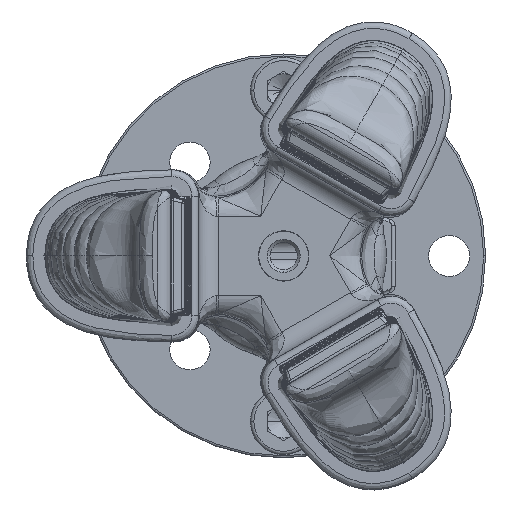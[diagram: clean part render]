
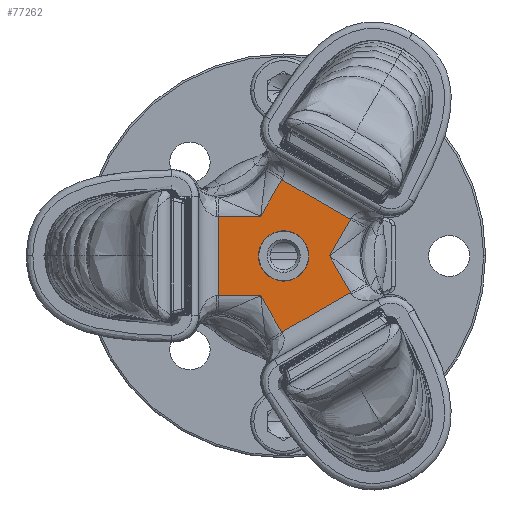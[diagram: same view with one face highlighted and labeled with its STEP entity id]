
A CAD part, left-side view. The second image highlights one B-rep face of the part: STEP entity #77262.
In plain terms, the highlighted planar face has unit normal (-1, 0, 0) as drawn and (-1, -0.017, 0) by its records, which use the part's own axes.
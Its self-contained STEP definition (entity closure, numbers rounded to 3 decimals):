
#1032 = ORIENTED_EDGE ( 'NONE', *, *, #43422, .F. ) ;
#2849 = DIRECTION ( 'NONE',  ( 0.017, -1., 0. ) ) ;
#4518 = VERTEX_POINT ( 'NONE', #40141 ) ;
#6142 = PLANE ( 'NONE',  #62384 ) ;
#6792 = DIRECTION ( 'NONE',  ( 0.015, -0.866, 0.5 ) ) ;
#7207 = DIRECTION ( 'NONE',  ( 0.017, -1., 0. ) ) ;
#7908 = ORIENTED_EDGE ( 'NONE', *, *, #42621, .T. ) ;
#8778 = CARTESIAN_POINT ( 'NONE',  ( 1.16, -16.764, 6. ) ) ;
#10784 = ORIENTED_EDGE ( 'NONE', *, *, #33320, .T. ) ;
#11603 = DIRECTION ( 'NONE',  ( 0.009, -0.5, -0.866 ) ) ;
#11904 = VERTEX_POINT ( 'NONE', #72953 ) ;
#13123 = DIRECTION ( 'NONE',  ( -0.017, 1., 0. ) ) ;
#16214 = CARTESIAN_POINT ( 'NONE',  ( 1.442, -32.935, -4.014 ) ) ;
#17763 = LINE ( 'NONE', #85562, #87995 ) ;
#18107 = EDGE_CURVE ( 'NONE', #71118, #38126, #34541, .T. ) ;
#18414 = CARTESIAN_POINT ( 'NONE',  ( 1.216, -19.947, -11.514 ) ) ;
#20088 = VECTOR ( 'NONE', #45225, 1000. ) ;
#20771 = ORIENTED_EDGE ( 'NONE', *, *, #45048, .T. ) ;
#22015 = LINE ( 'NONE', #29267, #27694 ) ;
#25244 = EDGE_CURVE ( 'NONE', #56245, #30819, #37449, .T. ) ;
#26214 = DIRECTION ( 'NONE',  ( 0.017, -1., 0. ) ) ;
#27335 = CARTESIAN_POINT ( 'NONE',  ( 1.221, -20.227, 0. ) ) ;
#27461 = CARTESIAN_POINT ( 'NONE',  ( 1.049, -10.398, 6. ) ) ;
#27694 = VECTOR ( 'NONE', #13123, 1000. ) ;
#28007 = CARTESIAN_POINT ( 'NONE',  ( 1.397, -30.338, 5.514 ) ) ;
#29267 = CARTESIAN_POINT ( 'NONE',  ( 1.002, -7.729, 6. ) ) ;
#30434 = CARTESIAN_POINT ( 'NONE',  ( 1.17, -17.349, 13.014 ) ) ;
#30493 = CARTESIAN_POINT ( 'NONE',  ( 1.42, -31.672, 7.825 ) ) ;
#30819 = VERTEX_POINT ( 'NONE', #8778 ) ;
#33310 = CARTESIAN_POINT ( 'NONE',  ( 1.311, -25.423, 3. ) ) ;
#33320 = EDGE_CURVE ( 'NONE', #59143, #11904, #56809, .T. ) ;
#34541 = LINE ( 'NONE', #70059, #51766 ) ;
#36807 = EDGE_CURVE ( 'NONE', #87031, #109298, #96088, .T. ) ;
#37256 = VERTEX_POINT ( 'NONE', #91627 ) ;
#37449 = LINE ( 'NONE', #71316, #20088 ) ;
#38126 = VERTEX_POINT ( 'NONE', #61625 ) ;
#38512 = CIRCLE ( 'NONE', #77621, 3.8 ) ;
#39304 = LINE ( 'NONE', #30434, #75847 ) ;
#40141 = CARTESIAN_POINT ( 'NONE',  ( 1.287, -24.027, 0. ) ) ;
#41394 = ORIENTED_EDGE ( 'NONE', *, *, #55280, .T. ) ;
#42098 = EDGE_CURVE ( 'NONE', #11904, #87031, #48898, .T. ) ;
#42516 = CARTESIAN_POINT ( 'NONE',  ( 1.216, -19.947, 11.514 ) ) ;
#42621 = EDGE_CURVE ( 'NONE', #38126, #59143, #83081, .T. ) ;
#42732 = VERTEX_POINT ( 'NONE', #27461 ) ;
#43292 = ORIENTED_EDGE ( 'NONE', *, *, #42098, .T. ) ;
#43422 = EDGE_CURVE ( 'NONE', #37256, #4518, #38512, .T. ) ;
#43997 = DIRECTION ( 'NONE',  ( -1., -0.017, 0. ) ) ;
#45048 = EDGE_CURVE ( 'NONE', #109298, #56245, #39304, .T. ) ;
#45225 = DIRECTION ( 'NONE',  ( -0.009, 0.5, -0.866 ) ) ;
#45798 = VECTOR ( 'NONE', #11603, 1000. ) ;
#47076 = CIRCLE ( 'NONE', #59426, 3.8 ) ;
#48898 = LINE ( 'NONE', #33310, #70612 ) ;
#51766 = VECTOR ( 'NONE', #26214, 1000. ) ;
#54669 = VECTOR ( 'NONE', #6792, 1000. ) ;
#55280 = EDGE_CURVE ( 'NONE', #42732, #71118, #17763, .T. ) ;
#56245 = VERTEX_POINT ( 'NONE', #42516 ) ;
#56809 = LINE ( 'NONE', #16214, #54669 ) ;
#58325 = CARTESIAN_POINT ( 'NONE',  ( 1.002, -7.729, -9. ) ) ;
#58861 = FACE_OUTER_BOUND ( 'NONE', #67814, .T. ) ;
#59143 = VERTEX_POINT ( 'NONE', #18414 ) ;
#59426 = AXIS2_PLACEMENT_3D ( 'NONE', #100210, #75155, #91852 ) ;
#61299 = ORIENTED_EDGE ( 'NONE', *, *, #18107, .T. ) ;
#61625 = CARTESIAN_POINT ( 'NONE',  ( 1.16, -16.764, -6. ) ) ;
#62384 = AXIS2_PLACEMENT_3D ( 'NONE', #58325, #92233, #7207 ) ;
#67589 = ORIENTED_EDGE ( 'NONE', *, *, #89673, .F. ) ;
#67814 = EDGE_LOOP ( 'NONE', ( #61299, #7908, #10784, #43292, #69238, #20771, #94778, #71003, #41394 ) ) ;
#69238 = ORIENTED_EDGE ( 'NONE', *, *, #36807, .T. ) ;
#70059 = CARTESIAN_POINT ( 'NONE',  ( 1.221, -20.227, -6. ) ) ;
#70612 = VECTOR ( 'NONE', #82807, 1000. ) ;
#71003 = ORIENTED_EDGE ( 'NONE', *, *, #71070, .T. ) ;
#71070 = EDGE_CURVE ( 'NONE', #30819, #42732, #22015, .T. ) ;
#71118 = VERTEX_POINT ( 'NONE', #106519 ) ;
#71316 = CARTESIAN_POINT ( 'NONE',  ( 1.13, -15.032, 3. ) ) ;
#72277 = VECTOR ( 'NONE', #89937, 1000. ) ;
#72953 = CARTESIAN_POINT ( 'NONE',  ( 1.397, -30.338, -5.514 ) ) ;
#75155 = DIRECTION ( 'NONE',  ( -1., -0.017, 0. ) ) ;
#75847 = VECTOR ( 'NONE', #108753, 1000. ) ;
#77262 = ADVANCED_FACE ( 'NONE', ( #108931, #58861 ), #6142, .T. ) ;
#77621 = AXIS2_PLACEMENT_3D ( 'NONE', #27335, #43997, #2849 ) ;
#79629 = CARTESIAN_POINT ( 'NONE',  ( 1.342, -27.154, 0. ) ) ;
#82807 = DIRECTION ( 'NONE',  ( -0.009, 0.5, 0.866 ) ) ;
#83081 = LINE ( 'NONE', #87716, #45798 ) ;
#83906 = DIRECTION ( 'NONE',  ( 0., 0., -1. ) ) ;
#85562 = CARTESIAN_POINT ( 'NONE',  ( 1.049, -10.398, -9. ) ) ;
#87031 = VERTEX_POINT ( 'NONE', #79629 ) ;
#87716 = CARTESIAN_POINT ( 'NONE',  ( 1.239, -21.281, -13.825 ) ) ;
#87995 = VECTOR ( 'NONE', #83906, 1000. ) ;
#89673 = EDGE_CURVE ( 'NONE', #4518, #37256, #47076, .T. ) ;
#89937 = DIRECTION ( 'NONE',  ( 0.009, -0.5, 0.866 ) ) ;
#91627 = CARTESIAN_POINT ( 'NONE',  ( 1.154, -16.428, 0. ) ) ;
#91852 = DIRECTION ( 'NONE',  ( 0.017, -1., 0. ) ) ;
#92233 = DIRECTION ( 'NONE',  ( -1., -0.017, 0. ) ) ;
#94778 = ORIENTED_EDGE ( 'NONE', *, *, #25244, .T. ) ;
#96088 = LINE ( 'NONE', #30493, #72277 ) ;
#98253 = EDGE_LOOP ( 'NONE', ( #67589, #1032 ) ) ;
#100210 = CARTESIAN_POINT ( 'NONE',  ( 1.221, -20.227, 0. ) ) ;
#106519 = CARTESIAN_POINT ( 'NONE',  ( 1.049, -10.398, -6. ) ) ;
#108753 = DIRECTION ( 'NONE',  ( -0.015, 0.866, 0.5 ) ) ;
#108931 = FACE_BOUND ( 'NONE', #98253, .T. ) ;
#109298 = VERTEX_POINT ( 'NONE', #28007 ) ;
